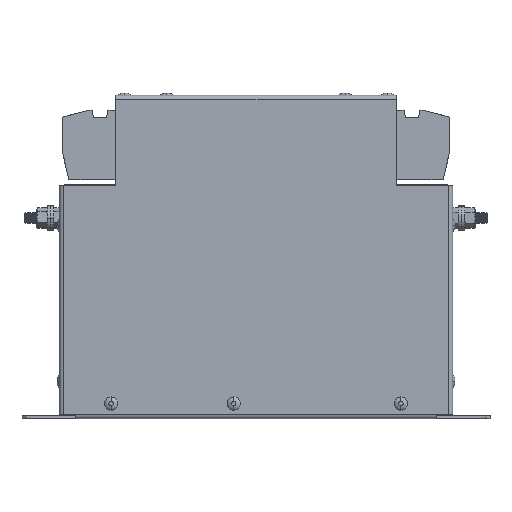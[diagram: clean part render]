
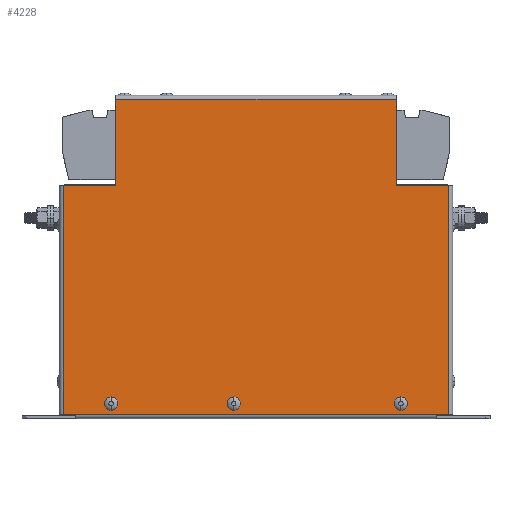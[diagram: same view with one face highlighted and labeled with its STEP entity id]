
A CAD part, top view. The second image highlights one B-rep face of the part: STEP entity #4228.
In plain terms, the highlighted planar face has unit normal (0, 0, 1).
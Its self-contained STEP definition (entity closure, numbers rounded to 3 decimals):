
#63 = EDGE_CURVE ( 'NONE', #11034, #10722, #10841, .T. ) ;
#145 = EDGE_LOOP ( 'NONE', ( #14224, #10830, #1433, #11303, #15143, #10375, #1724, #13058 ) ) ;
#337 = CARTESIAN_POINT ( 'NONE',  ( -65., -66.05, 0. ) ) ;
#492 = CIRCLE ( 'NONE', #6341, 1.75 ) ;
#564 = CARTESIAN_POINT ( 'NONE',  ( -87., -71.05, 0. ) ) ;
#640 = AXIS2_PLACEMENT_3D ( 'NONE', #3745, #12438, #13601 ) ;
#701 = EDGE_CURVE ( 'NONE', #7151, #9288, #11008, .T. ) ;
#858 = DIRECTION ( 'NONE',  ( 0., -1., 0. ) ) ;
#971 = CARTESIAN_POINT ( 'NONE',  ( -86.5, -71.05, 0. ) ) ;
#1037 = VECTOR ( 'NONE', #5433, 1000. ) ;
#1116 = EDGE_CURVE ( 'NONE', #10299, #2118, #4770, .T. ) ;
#1420 = CARTESIAN_POINT ( 'NONE',  ( -63.25, -66.05, 0. ) ) ;
#1433 = ORIENTED_EDGE ( 'NONE', *, *, #2722, .T. ) ;
#1511 = CARTESIAN_POINT ( 'NONE',  ( -11.75, -66.05, 0. ) ) ;
#1680 = DIRECTION ( 'NONE',  ( 0., 0., 1. ) ) ;
#1724 = ORIENTED_EDGE ( 'NONE', *, *, #63, .T. ) ;
#1952 = DIRECTION ( 'NONE',  ( 0., 1., 0. ) ) ;
#1996 = ORIENTED_EDGE ( 'NONE', *, *, #5268, .F. ) ;
#2118 = VERTEX_POINT ( 'NONE', #2813 ) ;
#2170 = DIRECTION ( 'NONE',  ( 1., 0., 0. ) ) ;
#2370 = PLANE ( 'NONE',  #8470 ) ;
#2459 = EDGE_LOOP ( 'NONE', ( #3047, #14449 ) ) ;
#2611 = DIRECTION ( 'NONE',  ( 0., 0., 1. ) ) ;
#2722 = EDGE_CURVE ( 'NONE', #12547, #6607, #10583, .T. ) ;
#2813 = CARTESIAN_POINT ( 'NONE',  ( 63.25, -66.05, 0. ) ) ;
#3047 = ORIENTED_EDGE ( 'NONE', *, *, #1116, .F. ) ;
#3105 = VERTEX_POINT ( 'NONE', #1511 ) ;
#3177 = EDGE_CURVE ( 'NONE', #2118, #10299, #7158, .T. ) ;
#3193 = DIRECTION ( 'NONE',  ( 0., 1., 0. ) ) ;
#3348 = EDGE_CURVE ( 'NONE', #11034, #7151, #9972, .T. ) ;
#3372 = VERTEX_POINT ( 'NONE', #11347 ) ;
#3699 = VERTEX_POINT ( 'NONE', #1420 ) ;
#3745 = CARTESIAN_POINT ( 'NONE',  ( -10., -66.05, 0. ) ) ;
#4149 = CARTESIAN_POINT ( 'NONE',  ( 65., -66.05, 0. ) ) ;
#4228 = ADVANCED_FACE ( 'NONE', ( #9383, #12228, #8444, #10334 ), #2370, .T. ) ;
#4234 = EDGE_CURVE ( 'NONE', #13877, #3699, #492, .T. ) ;
#4577 = AXIS2_PLACEMENT_3D ( 'NONE', #337, #1680, #7653 ) ;
#4734 = CARTESIAN_POINT ( 'NONE',  ( -65., -66.05, 0. ) ) ;
#4770 = CIRCLE ( 'NONE', #8161, 1.75 ) ;
#4864 = EDGE_CURVE ( 'NONE', #10242, #3372, #11869, .T. ) ;
#4878 = DIRECTION ( 'NONE',  ( 0., 0., 1. ) ) ;
#4938 = CARTESIAN_POINT ( 'NONE',  ( 65., -66.05, 0. ) ) ;
#5268 = EDGE_CURVE ( 'NONE', #3699, #13877, #11246, .T. ) ;
#5433 = DIRECTION ( 'NONE',  ( -1., 0., 0. ) ) ;
#5457 = LINE ( 'NONE', #10522, #8118 ) ;
#5640 = DIRECTION ( 'NONE',  ( 1., 0., 0. ) ) ;
#6038 = DIRECTION ( 'NONE',  ( 1., 0., 0. ) ) ;
#6341 = AXIS2_PLACEMENT_3D ( 'NONE', #4734, #8566, #15691 ) ;
#6412 = DIRECTION ( 'NONE',  ( 1., 0., 0. ) ) ;
#6553 = EDGE_CURVE ( 'NONE', #3105, #11879, #12950, .T. ) ;
#6607 = VERTEX_POINT ( 'NONE', #8130 ) ;
#6976 = CARTESIAN_POINT ( 'NONE',  ( -86.5, 31.75, 0. ) ) ;
#7151 = VERTEX_POINT ( 'NONE', #9064 ) ;
#7158 = CIRCLE ( 'NONE', #15174, 1.75 ) ;
#7357 = CARTESIAN_POINT ( 'NONE',  ( 0., 0., 0. ) ) ;
#7386 = ORIENTED_EDGE ( 'NONE', *, *, #10617, .F. ) ;
#7582 = CARTESIAN_POINT ( 'NONE',  ( -87., 31.75, 0. ) ) ;
#7653 = DIRECTION ( 'NONE',  ( 1., 0., 0. ) ) ;
#7789 = EDGE_CURVE ( 'NONE', #10242, #12547, #10031, .T. ) ;
#7853 = CARTESIAN_POINT ( 'NONE',  ( 63., 70.55, 0. ) ) ;
#8053 = CARTESIAN_POINT ( 'NONE',  ( -86.5, 31.75, 0. ) ) ;
#8118 = VECTOR ( 'NONE', #3193, 1000. ) ;
#8130 = CARTESIAN_POINT ( 'NONE',  ( 86.5, -71.05, 0. ) ) ;
#8161 = AXIS2_PLACEMENT_3D ( 'NONE', #4149, #11352, #6412 ) ;
#8444 = FACE_BOUND ( 'NONE', #12864, .T. ) ;
#8470 = AXIS2_PLACEMENT_3D ( 'NONE', #7357, #4878, #6038 ) ;
#8566 = DIRECTION ( 'NONE',  ( 0., 0., 1. ) ) ;
#8602 = VECTOR ( 'NONE', #14994, 1000. ) ;
#8752 = EDGE_LOOP ( 'NONE', ( #1996, #9207 ) ) ;
#8778 = CARTESIAN_POINT ( 'NONE',  ( 63., 71.05, 0. ) ) ;
#9064 = CARTESIAN_POINT ( 'NONE',  ( 63., 31.75, 0. ) ) ;
#9072 = CIRCLE ( 'NONE', #640, 1.75 ) ;
#9207 = ORIENTED_EDGE ( 'NONE', *, *, #4234, .F. ) ;
#9219 = CARTESIAN_POINT ( 'NONE',  ( -10., -66.05, 0. ) ) ;
#9288 = VERTEX_POINT ( 'NONE', #13967 ) ;
#9307 = VECTOR ( 'NONE', #2170, 1000. ) ;
#9383 = FACE_BOUND ( 'NONE', #8752, .T. ) ;
#9919 = AXIS2_PLACEMENT_3D ( 'NONE', #9219, #15438, #5640 ) ;
#9926 = CARTESIAN_POINT ( 'NONE',  ( -66.75, -66.05, 0. ) ) ;
#9972 = LINE ( 'NONE', #8778, #13402 ) ;
#10031 = LINE ( 'NONE', #8053, #12925 ) ;
#10054 = DIRECTION ( 'NONE',  ( 0., -1., 0. ) ) ;
#10187 = VECTOR ( 'NONE', #11481, 1000. ) ;
#10242 = VERTEX_POINT ( 'NONE', #6976 ) ;
#10299 = VERTEX_POINT ( 'NONE', #14379 ) ;
#10334 = FACE_OUTER_BOUND ( 'NONE', #145, .T. ) ;
#10375 = ORIENTED_EDGE ( 'NONE', *, *, #3348, .F. ) ;
#10522 = CARTESIAN_POINT ( 'NONE',  ( 86.5, -71.05, 0. ) ) ;
#10583 = LINE ( 'NONE', #564, #10187 ) ;
#10617 = EDGE_CURVE ( 'NONE', #11879, #3105, #9072, .T. ) ;
#10722 = VERTEX_POINT ( 'NONE', #13927 ) ;
#10830 = ORIENTED_EDGE ( 'NONE', *, *, #7789, .T. ) ;
#10841 = LINE ( 'NONE', #12755, #1037 ) ;
#11008 = LINE ( 'NONE', #14279, #9307 ) ;
#11034 = VERTEX_POINT ( 'NONE', #7853 ) ;
#11073 = DIRECTION ( 'NONE',  ( 1., 0., 0. ) ) ;
#11246 = CIRCLE ( 'NONE', #4577, 1.75 ) ;
#11303 = ORIENTED_EDGE ( 'NONE', *, *, #11864, .T. ) ;
#11347 = CARTESIAN_POINT ( 'NONE',  ( -63., 31.75, 0. ) ) ;
#11352 = DIRECTION ( 'NONE',  ( 0., 0., 1. ) ) ;
#11481 = DIRECTION ( 'NONE',  ( 1., 0., 0. ) ) ;
#11864 = EDGE_CURVE ( 'NONE', #6607, #9288, #5457, .T. ) ;
#11869 = LINE ( 'NONE', #7582, #8602 ) ;
#11879 = VERTEX_POINT ( 'NONE', #15690 ) ;
#12042 = EDGE_CURVE ( 'NONE', #3372, #10722, #14915, .T. ) ;
#12228 = FACE_BOUND ( 'NONE', #2459, .T. ) ;
#12438 = DIRECTION ( 'NONE',  ( 0., 0., 1. ) ) ;
#12547 = VERTEX_POINT ( 'NONE', #971 ) ;
#12755 = CARTESIAN_POINT ( 'NONE',  ( 63., 70.55, 0. ) ) ;
#12863 = CARTESIAN_POINT ( 'NONE',  ( -63., 71.05, 0. ) ) ;
#12864 = EDGE_LOOP ( 'NONE', ( #7386, #15571 ) ) ;
#12925 = VECTOR ( 'NONE', #858, 1000. ) ;
#12950 = CIRCLE ( 'NONE', #9919, 1.75 ) ;
#13058 = ORIENTED_EDGE ( 'NONE', *, *, #12042, .F. ) ;
#13402 = VECTOR ( 'NONE', #10054, 1000. ) ;
#13601 = DIRECTION ( 'NONE',  ( 1., 0., 0. ) ) ;
#13790 = VECTOR ( 'NONE', #1952, 1000. ) ;
#13877 = VERTEX_POINT ( 'NONE', #9926 ) ;
#13927 = CARTESIAN_POINT ( 'NONE',  ( -63., 70.55, 0. ) ) ;
#13967 = CARTESIAN_POINT ( 'NONE',  ( 86.5, 31.75, 0. ) ) ;
#14224 = ORIENTED_EDGE ( 'NONE', *, *, #4864, .F. ) ;
#14279 = CARTESIAN_POINT ( 'NONE',  ( 87., 31.75, 0. ) ) ;
#14379 = CARTESIAN_POINT ( 'NONE',  ( 66.75, -66.05, 0. ) ) ;
#14449 = ORIENTED_EDGE ( 'NONE', *, *, #3177, .F. ) ;
#14915 = LINE ( 'NONE', #12863, #13790 ) ;
#14994 = DIRECTION ( 'NONE',  ( 1., 0., 0. ) ) ;
#15143 = ORIENTED_EDGE ( 'NONE', *, *, #701, .F. ) ;
#15174 = AXIS2_PLACEMENT_3D ( 'NONE', #4938, #2611, #11073 ) ;
#15438 = DIRECTION ( 'NONE',  ( 0., 0., 1. ) ) ;
#15571 = ORIENTED_EDGE ( 'NONE', *, *, #6553, .F. ) ;
#15690 = CARTESIAN_POINT ( 'NONE',  ( -8.25, -66.05, 0. ) ) ;
#15691 = DIRECTION ( 'NONE',  ( 1., 0., 0. ) ) ;
